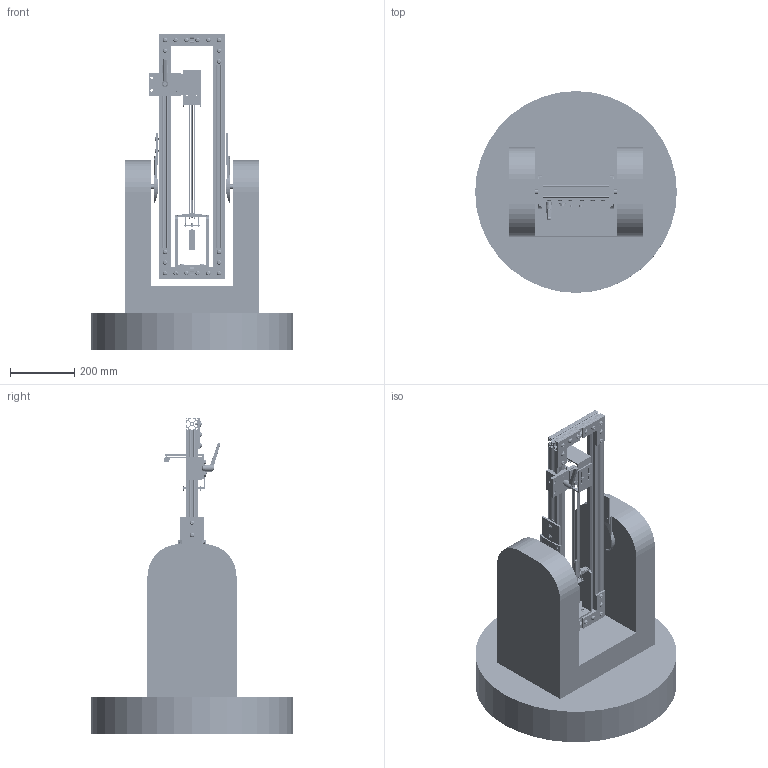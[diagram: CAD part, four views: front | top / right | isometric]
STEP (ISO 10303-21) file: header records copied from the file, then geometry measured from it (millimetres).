
FILE_DESCRIPTION (( 'STEP AP203' ), '1' );
FILE_NAME ('setup_4x4_092622.STEP', '2024-02-10T15:59:03', ( '' ), ( '' ), 'SwSTEP 2.0', 'SolidWorks 2021', '' );
FILE_SCHEMA (( 'CONFIG_CONTROL_DESIGN' ));
Products named in the file (1): setup_4x4_092622
Bounding box: 626.34 x 626.34 x 981.46 mm (x, y, z)
Surface area: 3019974.3 mm2 (no closed solid volume)
Topology: 0 solids, 407 shells, 12499 faces, 29254 edges, 18857 vertices
Faces by surface type: plane 4775, cylinder 4486, cone 1986, bspline 1079, torus 127, sphere 46
Entity records: 570563 total; most frequent: CARTESIAN_POINT 291994, ORIENTED_EDGE 58130, DIRECTION 55758, EDGE_CURVE 29148, AXIS2_PLACEMENT_3D 20682, VERTEX_POINT 18830, EDGE_LOOP 14796, VECTOR 14394
